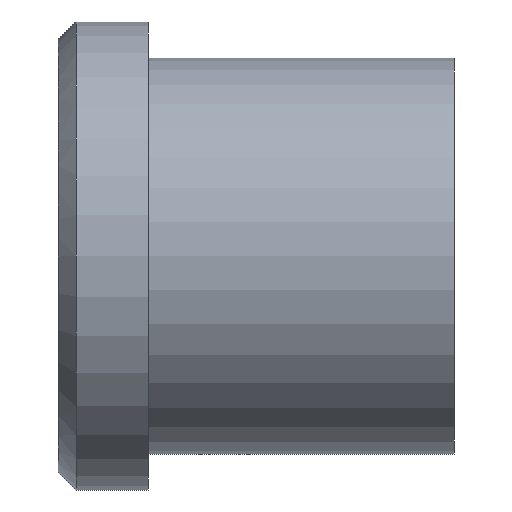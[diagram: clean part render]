
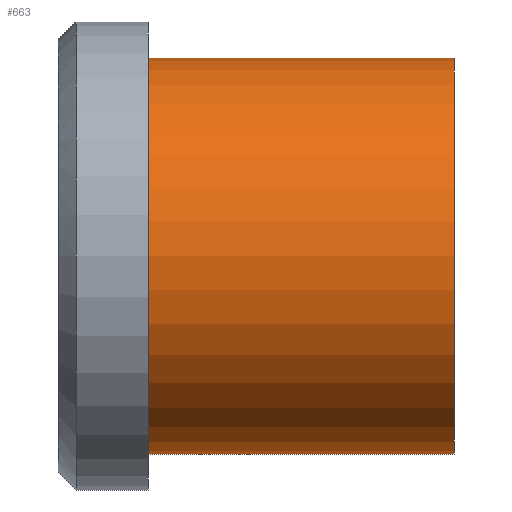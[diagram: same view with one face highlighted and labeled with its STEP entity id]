
A CAD part, front view. The second image highlights one B-rep face of the part: STEP entity #663.
In plain terms, the highlighted cylindrical face has radius 11 mm (diameter 22 mm), a partial arc.
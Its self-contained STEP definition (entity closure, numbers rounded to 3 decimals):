
#501=CARTESIAN_POINT('Vertex',(0.,0.,-11.)) ;
#506=CARTESIAN_POINT('Axis2P3D Location',(0.,0.,0.)) ;
#510=CARTESIAN_POINT('Vertex',(0.,-11.,0.)) ;
#513=CARTESIAN_POINT('Axis2P3D Location',(0.,0.,0.)) ;
#517=CARTESIAN_POINT('Vertex',(0.,0.,11.)) ;
#603=CARTESIAN_POINT('Line Origine',(17.,0.,11.)) ;
#607=CARTESIAN_POINT('Vertex',(17.,0.,11.)) ;
#621=CARTESIAN_POINT('Vertex',(17.,0.,-11.)) ;
#624=CARTESIAN_POINT('Line Origine',(17.,0.,-11.)) ;
#638=CARTESIAN_POINT('Axis2P3D Location',(17.,0.,0.)) ;
#643=CARTESIAN_POINT('Axis2P3D Location',(17.,0.,0.)) ;
#647=CARTESIAN_POINT('Vertex',(17.,-11.,0.)) ;
#650=CARTESIAN_POINT('Axis2P3D Location',(17.,0.,0.)) ;
#507=DIRECTION('Axis2P3D Direction',(1.,0.,-0.)) ;
#514=DIRECTION('Axis2P3D Direction',(1.,0.,-0.)) ;
#604=DIRECTION('Vector Direction',(-1.,0.,0.)) ;
#625=DIRECTION('Vector Direction',(-1.,0.,0.)) ;
#639=DIRECTION('Axis2P3D Direction',(-1.,-0.,-0.)) ;
#640=DIRECTION('Axis2P3D XDirection',(0.,0.,-1.)) ;
#644=DIRECTION('Axis2P3D Direction',(-1.,-0.,-0.)) ;
#651=DIRECTION('Axis2P3D Direction',(-1.,-0.,-0.)) ;
#508=AXIS2_PLACEMENT_3D('Circle Axis2P3D',#506,#507,$) ;
#515=AXIS2_PLACEMENT_3D('Circle Axis2P3D',#513,#514,$) ;
#641=AXIS2_PLACEMENT_3D('Cylinder Axis2P3D',#638,#639,#640) ;
#645=AXIS2_PLACEMENT_3D('Circle Axis2P3D',#643,#644,$) ;
#652=AXIS2_PLACEMENT_3D('Circle Axis2P3D',#650,#651,$) ;
#656=ORIENTED_EDGE('',*,*,#628,.T.) ;
#657=ORIENTED_EDGE('',*,*,#649,.F.) ;
#658=ORIENTED_EDGE('',*,*,#654,.F.) ;
#659=ORIENTED_EDGE('',*,*,#609,.T.) ;
#660=ORIENTED_EDGE('',*,*,#519,.T.) ;
#661=ORIENTED_EDGE('',*,*,#512,.T.) ;
#605=VECTOR('Line Direction',#604,1.) ;
#626=VECTOR('Line Direction',#625,1.) ;
#663=ADVANCED_FACE('353-16X22',(#662),#642,.T.) ;
#509=CIRCLE('generated circle',#508,11.) ;
#516=CIRCLE('generated circle',#515,11.) ;
#646=CIRCLE('generated circle',#645,11.) ;
#653=CIRCLE('generated circle',#652,11.) ;
#642=CYLINDRICAL_SURFACE('generated cylinder',#641,11.) ;
#512=EDGE_CURVE('',#511,#502,#509,.T.) ;
#519=EDGE_CURVE('',#518,#511,#516,.T.) ;
#609=EDGE_CURVE('',#608,#518,#606,.T.) ;
#628=EDGE_CURVE('',#502,#622,#627,.F.) ;
#649=EDGE_CURVE('',#648,#622,#646,.F.) ;
#654=EDGE_CURVE('',#608,#648,#653,.F.) ;
#655=EDGE_LOOP('',(#656,#657,#658,#659,#660,#661)) ;
#662=FACE_OUTER_BOUND('',#655,.T.) ;
#606=LINE('Line',#603,#605) ;
#627=LINE('Line',#624,#626) ;
#502=VERTEX_POINT('',#501) ;
#511=VERTEX_POINT('',#510) ;
#518=VERTEX_POINT('',#517) ;
#608=VERTEX_POINT('',#607) ;
#622=VERTEX_POINT('',#621) ;
#648=VERTEX_POINT('',#647) ;
